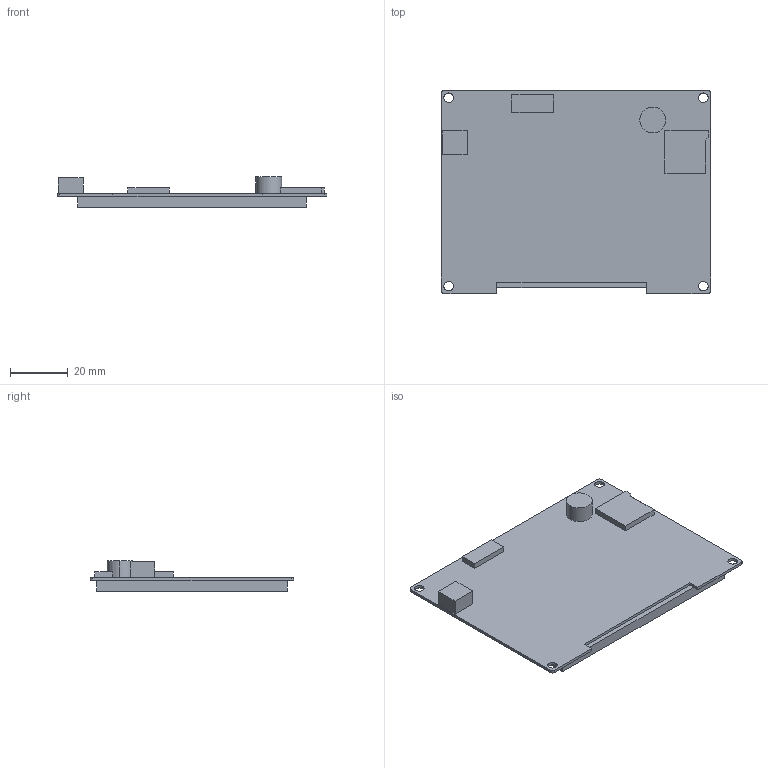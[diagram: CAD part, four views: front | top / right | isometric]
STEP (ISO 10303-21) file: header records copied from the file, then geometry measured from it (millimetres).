
FILE_DESCRIPTION((''),'2;1');
FILE_NAME('DMG32240S035_03W','2022-10-19T',('Administrator'),(''),'PRO/ENGINEER BY PARAMETRIC TECHNOLOGY CORPORATION, 2008380','PRO/ENGINEER BY PARAMETRIC TECHNOLOGY CORPORATION, 2008380','');
FILE_SCHEMA(('CONFIG_CONTROL_DESIGN'));
Length unit declared in the file: millimetre
Products named in the file (1): DMG32240S035_03W
Bounding box: 92.96 x 70.1 x 10.55 mm (x, y, z)
Volume: 25485.7 mm3; surface area: 14853.3 mm2
Topology: 1 solids, 1 shells, 53 faces, 15339 edges, 25988 vertices
Faces by surface type: plane 39, cylinder 14
Entity records: 82206 total; most frequent: DIRECTION 19961, CARTESIAN_POINT 15483, TRIMMED_CURVE 15203, VECTOR 10825, LINE 10825, AXIS2_PLACEMENT_3D 4568, CIRCLE 4514, ORIENTED_EDGE 272
